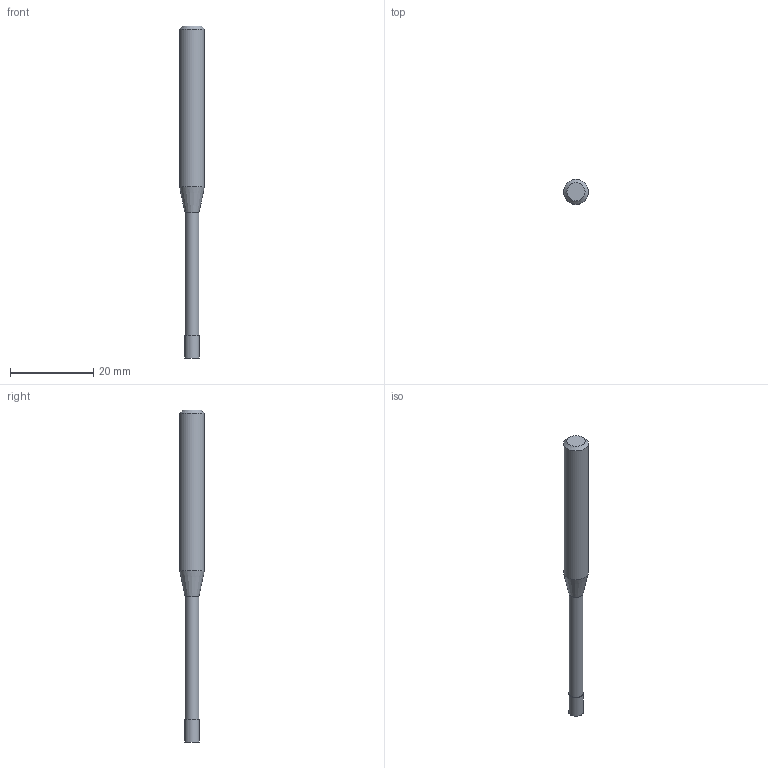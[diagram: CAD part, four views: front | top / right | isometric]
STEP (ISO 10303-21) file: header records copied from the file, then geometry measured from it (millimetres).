
FILE_DESCRIPTION((''),'2;1');
FILE_NAME('C:\Users\nsx150\AppData\Local\Temp\Mastercam 2021\17T8Q8S9EB\TEMP.step','2021-04-21T16:16:12',(''),(''),'STEP Write','Mastercam 2021 ... CNC Software, Inc.','');
FILE_SCHEMA(('AUTOMOTIVE_DESIGN'));
Length unit declared in the file: millimetre
Products named in the file (1): None
Bounding box: 6 x 6 x 80 mm (x, y, z)
Volume: 1513.4 mm3; surface area: 1241.9 mm2
Topology: 2 solids, 2 shells, 9 faces, 12 edges, 7 vertices
Faces by surface type: plane 4, cylinder 3, cone 2
Full cylindrical faces by diameter (mm): 3.35 x1, 3.5 x1, 6 x1
Entity records: 211 total; most frequent: DIRECTION 36, CARTESIAN_POINT 25, AXIS2_PLACEMENT_3D 18, ORIENTED_EDGE 14, EDGE_LOOP 14, STYLED_ITEM 12, ADVANCED_FACE 9, FACE_BOUND 8
